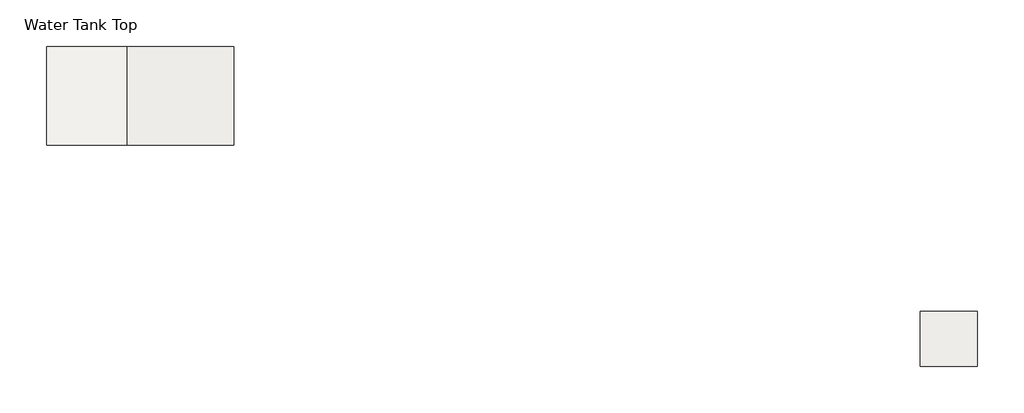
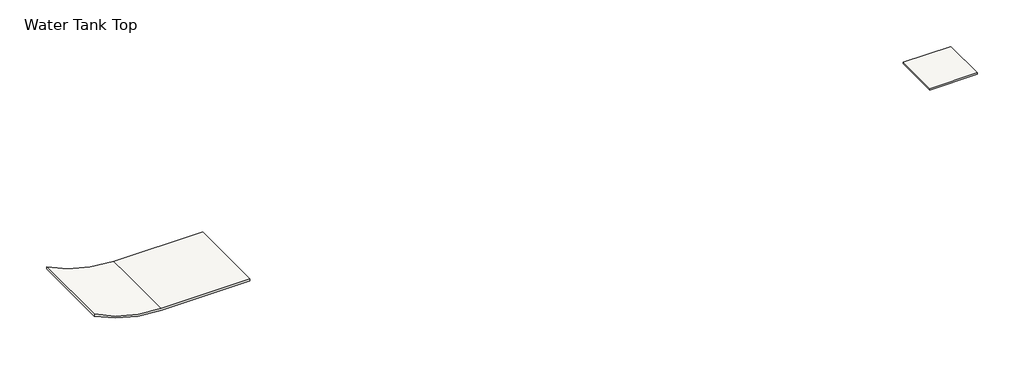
# One storey: 1 roof, 1 slab.
"""IFC4 building model written with IfcOpenShell, lengths in millimetres."""

import ifcopenshell
import ifcopenshell.guid

model = None  # the IFC model being written
_history = None  # IfcOwnerHistory: only IFC2X3 demands one
_inside = {}  # id of a spatial element -> (the spatial element, [elements in it])
_under = {}  # id of a project, library or spatial element -> (it, [spatial elements below it])
_declared = {}  # id of a project -> (the project, [libraries it declares])
_typed = {}  # id of a type object -> (the type object, [elements of that type])
_made_of = {}  # id of a material, layer set ... -> (it, [elements and type objects made of it])


def new_model(schema):
    """Start an empty IFC model of exactly this schema.

    Asked for "IFC4X3", IfcOpenShell would pick the latest addendum, in which some entities
    have other attributes; the version numbers below select the first issue.
    IFC2X3 requires an IfcOwnerHistory on every rooted entity: one is made here for all.
    """
    global model, _history
    if schema == "IFC4X3":
        model = ifcopenshell.file(schema_version=(4, 3, 0, 0))
    else:
        model = ifcopenshell.file(schema=schema)
    _inside.clear()
    _under.clear()
    _declared.clear()
    _typed.clear()
    _made_of.clear()
    _history = None
    if model.schema == "IFC2X3":
        org = make("IfcOrganization", Name="unknown")
        user = make(
            "IfcPersonAndOrganization",
            ThePerson=make("IfcPerson", FamilyName="unknown"),
            TheOrganization=org,
        )
        app = make(
            "IfcApplication",
            ApplicationDeveloper=org,
            Version="unknown",
            ApplicationFullName="unknown",
            ApplicationIdentifier="unknown",
        )
        _history = make(
            "IfcOwnerHistory",
            OwningUser=user,
            OwningApplication=app,
            ChangeAction="ADDED",
            CreationDate=0,
        )
    return model


def make(cls, **values):
    """One entity of the class cls with the attributes given. An attribute that is None is left unset."""
    return model.create_entity(
        cls, **{name: value for name, value in values.items() if value is not None}
    )


def rooted(cls, **values):
    """An entity with a GlobalId (a new one), such as an element, a storey or a relation."""
    return make(cls, GlobalId=ifcopenshell.guid.new(), OwnerHistory=_history, **values)


def si_unit(unit_type, name, prefix=None):
    """IfcSIUnit, for example si_unit("LENGTHUNIT", "METRE", prefix="MILLI")."""
    return make("IfcSIUnit", UnitType=unit_type, Prefix=prefix, Name=name)


def assignment(units):
    """IfcUnitAssignment: the units of a project."""
    return None if units is None else make("IfcUnitAssignment", Units=units)


def point(xyz):
    """IfcCartesianPoint."""
    return None if xyz is None else make("IfcCartesianPoint", Coordinates=xyz)


def direction(xyz):
    """IfcDirection."""
    return None if xyz is None else make("IfcDirection", DirectionRatios=xyz)


def frame(location, z_axis=None, x_axis=None):
    """IfcAxis2Placement3D, a coordinate frame: its origin and axes. An axis left out is left unset."""
    return make(
        "IfcAxis2Placement3D",
        Location=point(location),
        Axis=direction(z_axis),
        RefDirection=direction(x_axis),
    )


def frame_2d(location, x_axis=None):
    """IfcAxis2Placement2D, a coordinate frame in the plane: its origin and x axis."""
    return make(
        "IfcAxis2Placement2D", Location=point(location), RefDirection=direction(x_axis)
    )


def origin():
    """The frame at (0, 0, 0) with its axes left unset."""
    return frame((0.0, 0.0, 0.0))


def place(relative_to, where):
    """IfcLocalPlacement: puts the frame where relative to a parent placement (None: the world)."""
    return make(
        "IfcLocalPlacement", PlacementRelTo=relative_to, RelativePlacement=where
    )


def context(
    kind, dimensions, precision=None, world=None, true_north=None, identifier=None
):
    """IfcGeometricRepresentationContext, for example the 3D "Model" context."""
    return make(
        "IfcGeometricRepresentationContext",
        ContextIdentifier=identifier,
        ContextType=kind,
        CoordinateSpaceDimension=dimensions,
        Precision=precision,
        WorldCoordinateSystem=world,
        TrueNorth=true_north,
    )


def project(units=None, contexts=None):
    """IfcProject with its units and contexts."""
    return rooted(
        "IfcProject",
        Name="project",
        RepresentationContexts=contexts,
        UnitsInContext=assignment(units),
    )


def spatial(cls, under=None, at=None, **own):
    """A site, building, storey or space (cls), placed at a placement, below another one or the project."""
    s = rooted(cls, ObjectPlacement=at, **own)
    if under is not None:
        _under.setdefault(under.id(), (under, []))[1].append(s)
    return s


def polyline(points):
    """IfcPolyline through the points."""
    return make("IfcPolyline", Points=[point(p) for p in points])


def circle_curve(where, radius):
    """IfcCircle in the frame where."""
    return make("IfcCircle", Position=where, Radius=radius)


def trimmed(basis, trim1, trim2, sense, master):
    """IfcTrimmedCurve: the piece of a basis curve between two trims."""
    return make(
        "IfcTrimmedCurve",
        BasisCurve=basis,
        Trim1=trim1,
        Trim2=trim2,
        SenseAgreement=sense,
        MasterRepresentation=master,
    )


def segment(curve, same_sense, transition):
    """IfcCompositeCurveSegment."""
    return make(
        "IfcCompositeCurveSegment",
        Transition=transition,
        SameSense=same_sense,
        ParentCurve=curve,
    )


def composite_curve(segments, self_intersect=None):
    """IfcCompositeCurve: segments joined end to end."""
    return make("IfcCompositeCurve", Segments=segments, SelfIntersect=self_intersect)


def outline(outer, holes=None, kind="AREA"):
    """IfcArbitraryClosedProfileDef: a profile drawn as a closed curve; with holes, ...WithVoids."""
    if holes is None:
        return make("IfcArbitraryClosedProfileDef", ProfileType=kind, OuterCurve=outer)
    return make(
        "IfcArbitraryProfileDefWithVoids",
        ProfileType=kind,
        OuterCurve=outer,
        InnerCurves=holes,
    )


def extrude(swept, where, along, depth):
    """IfcExtrudedAreaSolid: the profile swept, set in the frame where, extruded along a direction by depth."""
    return make(
        "IfcExtrudedAreaSolid",
        SweptArea=swept,
        Position=where,
        ExtrudedDirection=direction(along),
        Depth=depth,
    )


def shape(context_of_items, identifier, shape_type, items):
    """IfcShapeRepresentation: the items that make up one representation, for example the "Body"."""
    return make(
        "IfcShapeRepresentation",
        ContextOfItems=context_of_items,
        RepresentationIdentifier=identifier,
        RepresentationType=shape_type,
        Items=items,
    )


def made_of(thing, what):
    """Note that an element or type object is made of a material, layer set ...; save() writes the relation."""
    if what is not None:
        _made_of.setdefault(what.id(), (what, []))[1].append(thing)
    return thing


def element(
    cls,
    number,
    at=None,
    inside=None,
    cuts=None,
    type_object=None,
    material=None,
    context=None,
    identifier="Body",
    shape_type=None,
    held_by="IfcProductDefinitionShape",
    body=None,
    shapes=None,
    **own,
):
    """One element of the class cls, such as IfcWall. Its Tag is "e" and its number.

    at: its placement. inside: the storey or other place that contains it. cuts: it is an
    opening in that element (IfcRelVoidsElement). A single representation is given by context,
    identifier, shape_type and body (its items); several are given by shapes. held_by: the class
    of the entity that holds the representations. save() writes the other relations.
    """
    e = rooted(cls, Tag="e%d" % number, ObjectPlacement=at, **own)
    if body is not None:
        shapes = [shape(context, identifier, shape_type, body)]
    if shapes is not None:
        e.Representation = make(held_by, Representations=shapes)
    if inside is not None:
        _inside.setdefault(inside.id(), (inside, []))[1].append(e)
    if cuts is not None:
        rooted(
            "IfcRelVoidsElement", RelatingBuildingElement=cuts, RelatedOpeningElement=e
        )
    if type_object is not None:
        _typed.setdefault(type_object.id(), (type_object, []))[1].append(e)
    return made_of(e, material)


def aggregate(whole, parts):
    """IfcRelAggregates: a whole, such as a stair, and the parts it consists of."""
    return rooted("IfcRelAggregates", RelatingObject=whole, RelatedObjects=parts)


def save(model, path):
    """Write the relations noted so far, then the file.

    IfcRelAggregates (storeys below a building ...), IfcRelContainedInSpatialStructure (elements
    in a storey), IfcRelDefinesByType, IfcRelAssociatesMaterial and IfcRelDeclares: one each for
    every whole, place, type object, material and project.
    """
    for whole, parts in _under.values():
        aggregate(whole, parts)
    for where, things in _inside.values():
        rooted(
            "IfcRelContainedInSpatialStructure",
            RelatedElements=things,
            RelatingStructure=where,
        )
    for kind, things in _typed.values():
        rooted("IfcRelDefinesByType", RelatedObjects=things, RelatingType=kind)
    for what, things in _made_of.values():
        rooted("IfcRelAssociatesMaterial", RelatedObjects=things, RelatingMaterial=what)
    for by, libraries in _declared.values():
        rooted("IfcRelDeclares", RelatingContext=by, RelatedDefinitions=libraries)
    model.write(path)


model = new_model("IFC4")

# Units and contexts
model_context = context("Model", 3, world=origin())
ifc_project = project(units=[si_unit("LENGTHUNIT", "METRE", prefix="MILLI")], contexts=[model_context])

# Site, building, storey
site = spatial("IfcSite", under=ifc_project)
building = spatial("IfcBuilding", under=site)
storey = spatial("IfcBuildingStorey", under=building, Name="Water Tank Top", Elevation=19900.0)

# Roof
placement = place(None, origin())
element("IfcRoof", 1, ObjectType="200 ROOF", at=placement, inside=storey, context=model_context, shape_type="SweptSolid", body=[
    extrude(outline(composite_curve([segment(polyline([(9972.7502237, -47069.4680999), (9743.769983, -47069.4680999)]), True, "CONTINUOUS"), segment(trimmed(circle_curve(frame_2d((22337.5222536, -40112.5865899)), 14387.5222536), [point((9743.769983, -47069.4680999))], [point((7950.0, -40112.5865899))], False, "CARTESIAN"), True, "CONTINUOUS"), segment(polyline([(7950.0, -40112.5865899), (7950.0, -30887.5865899), (8150.0, -30887.5865899), (8150.0, -40112.5865899)]), True, "CONTINUOUS"), segment(trimmed(circle_curve(frame_2d((22337.5222536, -40112.5865899)), 14187.5222536), [point((8150.0, -40112.5865899))], [point((9972.7502237, -47069.4680999))], True, "CARTESIAN"), True, "CONTINUOUS")], self_intersect=False)), frame((0.0, -6611.2110225, 0.0), z_axis=(0.0, 1.0, 0.0), x_axis=(0.0, 0.0, 1.0)), (0.0, 0.0, 1.0), 8533.5961572),
])

# Slab
element("IfcSlab", 2, ObjectType="RCC Slab", at=placement, inside=storey, context=model_context, shape_type="SweptSolid", body=[
    extrude(outline(polyline([(33504.4134101, -21042.6148653), (33504.4134101, -25807.6148653), (28569.4134101, -25807.6148653), (28569.4134101, -21042.6148653), (33504.4134101, -21042.6148653)])), frame((0.0, 0.0, 19750.0), z_axis=(0.0, 0.0, 1.0), x_axis=(1.0, 0.0, 0.0)), (0.0, 0.0, 1.0), 150.0),
])

save(model, "model.ifc")
